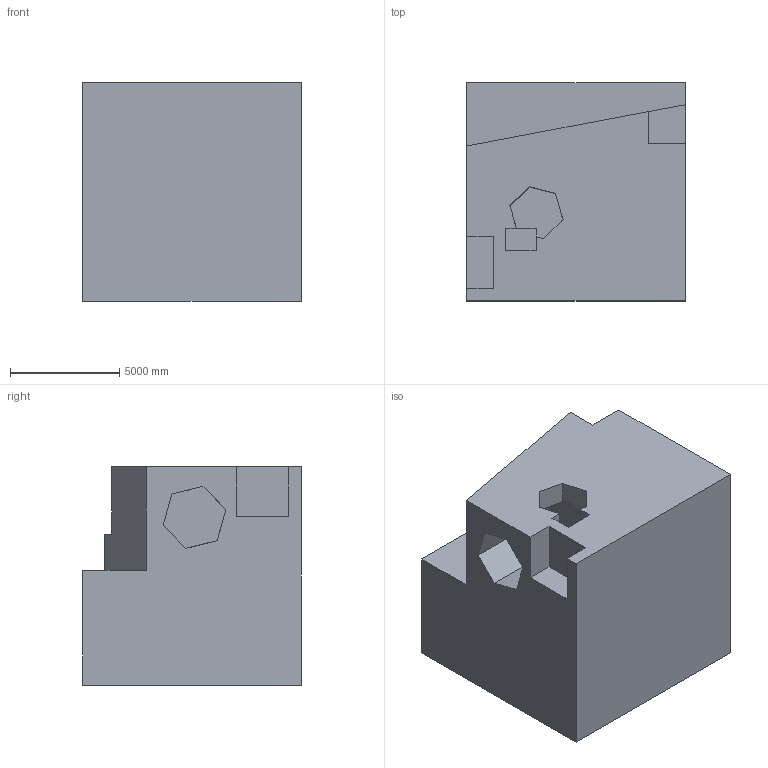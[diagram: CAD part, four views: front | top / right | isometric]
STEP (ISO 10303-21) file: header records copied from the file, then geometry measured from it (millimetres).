
FILE_DESCRIPTION (( 'STEP AP203' ), '1' );
FILE_NAME ('120.STEP', '2022-08-31T11:42:25', ( 'user' ), ( '' ), 'SwSTEP 2.0', 'SolidWorks 2021', '' );
FILE_SCHEMA (( 'CONFIG_CONTROL_DESIGN' ));
Length unit declared in the file: centimetre
Products named in the file (1): 120
Bounding box: 10000 x 10000 x 10000 mm (x, y, z)
Volume: 821682632636.8 mm3; surface area: 715418751.6 mm2
Topology: 1 solids, 1 shells, 45 faces, 123 edges, 82 vertices
Faces by surface type: plane 41, cylinder 4
Entity records: 1486 total; most frequent: CARTESIAN_POINT 251, ORIENTED_EDGE 246, DIRECTION 223, EDGE_CURVE 123, LINE 115, VECTOR 115, VERTEX_POINT 82, AXIS2_PLACEMENT_3D 54
